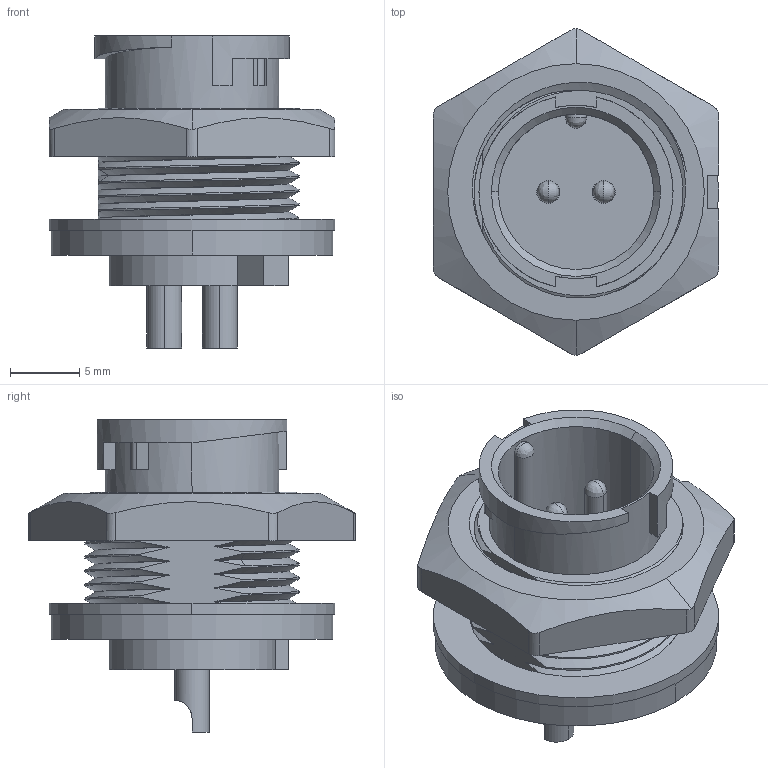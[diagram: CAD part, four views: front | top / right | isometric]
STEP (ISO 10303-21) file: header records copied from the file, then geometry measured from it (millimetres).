
FILE_DESCRIPTION (( 'STEP AP203' ), '1' );
FILE_NAME ('869-02A-103R001.STEP', '2024-06-14T18:20:42', ( '' ), ( '' ), 'SwSTEP 2.0', 'SolidWorks 2020', '' );
FILE_SCHEMA (( 'CONFIG_CONTROL_DESIGN' ));
Length unit declared in the file: millimetre
Products named in the file (1): 869-02A-103R001
Bounding box: 20.6 x 23.54 x 22.5 mm (x, y, z)
Volume: 2633.7 mm3; surface area: 3298.8 mm2
Topology: 1 solids, 1 shells, 186 faces, 538 edges, 344 vertices
Faces by surface type: cylinder 65, plane 51, bspline 49, cone 21
Entity records: 12569 total; most frequent: CARTESIAN_POINT 8196, ORIENTED_EDGE 1048, DIRECTION 670, EDGE_CURVE 524, VERTEX_POINT 344, AXIS2_PLACEMENT_3D 255, B_SPLINE_CURVE_WITH_KNOTS 247, EDGE_LOOP 200
